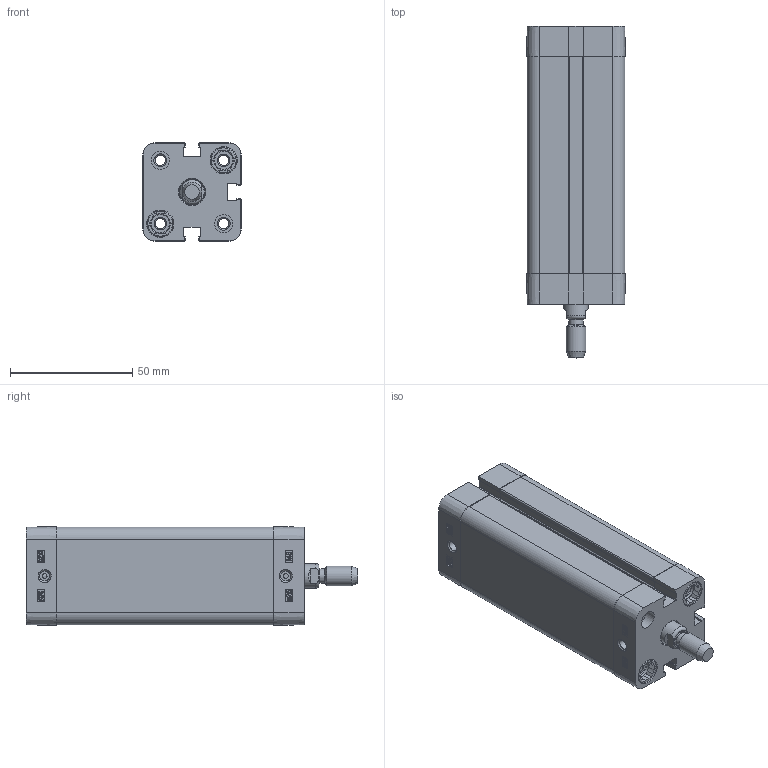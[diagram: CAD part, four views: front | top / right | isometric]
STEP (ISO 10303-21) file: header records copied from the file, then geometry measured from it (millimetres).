
FILE_DESCRIPTION((''),'2;1');
FILE_NAME('T:\Archivio Inventor\- CATALOGHI 2012\SERIE P - NUOVA\PDM\PDM025\PDM025.---.GS.M\PDM025.075.GS.M.stp','2013-01-31T08:08:00',('Administrator'),(''),'Autodesk Inventor 2012','Autodesk Inventor 2012','');
FILE_SCHEMA(('CONFIG_CONTROL_DESIGN'));
Length unit declared in the file: millimetre
Products named in the file (1): PDM025.075.GS.M
Bounding box: 40.3 x 136 x 40.3 mm (x, y, z)
Volume: 95562.6 mm3; surface area: 48895.1 mm2
Topology: 1 solids, 3 shells, 596 faces, 1552 edges, 1017 vertices
Faces by surface type: plane 312, cylinder 130, bspline 92, cone 50, torus 12
Full cylindrical faces by diameter (mm): 2 x2, 4.134 x10, 5.8 x1, 7.5 x4, 7.55 x2, 8 x9, 9 x1, 10 x1, 10.5 x1, 10.8 x4, 11.1 x4, 25 x1, 27.3 x1, 27.5 x1
Entity records: 18782 total; most frequent: CARTESIAN_POINT 4306, ORIENTED_EDGE 2888, DIRECTION 2606, EDGE_CURVE 1444, VERTEX_POINT 1002, VECTOR 898, LINE 898, AXIS2_PLACEMENT_3D 854
